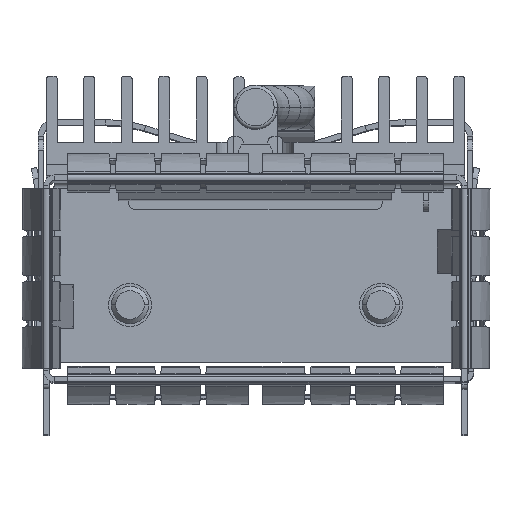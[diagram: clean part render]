
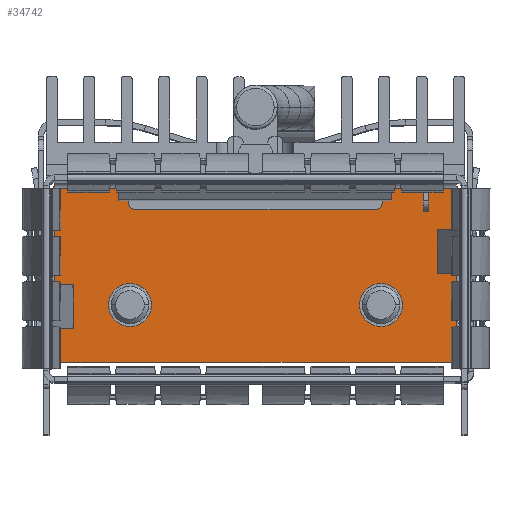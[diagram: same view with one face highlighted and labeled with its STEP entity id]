
A CAD part, top view. The second image highlights one B-rep face of the part: STEP entity #34742.
In plain terms, the highlighted planar face has unit normal (0, 0, 1).
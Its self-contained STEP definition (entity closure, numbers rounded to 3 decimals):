
#3237=DIRECTION('',(-1.,0.,0.));
#3238=VECTOR('',#3237,18.25);
#3239=CARTESIAN_POINT('',(9.125,4.2,-30.458));
#3240=LINE('',#3239,#3238);
#10620=DIRECTION('',(0.,1.,0.));
#10621=VECTOR('',#10620,7.9);
#10622=CARTESIAN_POINT('',(9.125,-3.7,-30.458));
#10623=LINE('',#10622,#10621);
#10949=DIRECTION('',(-1.,0.,0.));
#10950=VECTOR('',#10949,18.25);
#10951=CARTESIAN_POINT('',(9.125,-3.7,-30.458));
#10952=LINE('',#10951,#10950);
#10953=CARTESIAN_POINT('',(5.7,-1.1,-30.458));
#10954=DIRECTION('',(0.,0.,1.));
#10955=DIRECTION('',(-1.,0.,0.));
#10956=AXIS2_PLACEMENT_3D('',#10953,#10954,#10955);
#10958=CARTESIAN_POINT('',(5.7,-1.1,-30.458));
#10959=DIRECTION('',(0.,0.,1.));
#10960=DIRECTION('',(1.,0.,0.));
#10961=AXIS2_PLACEMENT_3D('',#10958,#10959,#10960);
#10963=CARTESIAN_POINT('',(-5.7,-1.1,-30.458));
#10964=DIRECTION('',(0.,0.,1.));
#10965=DIRECTION('',(-1.,0.,0.));
#10966=AXIS2_PLACEMENT_3D('',#10963,#10964,#10965);
#10968=CARTESIAN_POINT('',(-5.7,-1.1,-30.458));
#10969=DIRECTION('',(0.,0.,1.));
#10970=DIRECTION('',(1.,0.,0.));
#10971=AXIS2_PLACEMENT_3D('',#10968,#10969,#10970);
#10996=DIRECTION('',(0.,-1.,0.));
#10997=VECTOR('',#10996,7.9);
#10998=CARTESIAN_POINT('',(-9.125,4.2,-30.458));
#10999=LINE('',#10998,#10997);
#18038=CARTESIAN_POINT('',(9.125,4.2,-30.458));
#18039=VERTEX_POINT('',#18038);
#18040=CARTESIAN_POINT('',(-9.125,4.2,-30.458));
#18041=VERTEX_POINT('',#18040);
#20032=CARTESIAN_POINT('',(9.125,-3.7,-30.458));
#20033=VERTEX_POINT('',#20032);
#20134=CARTESIAN_POINT('',(-9.125,-3.7,-30.458));
#20135=VERTEX_POINT('',#20134);
#20138=CARTESIAN_POINT('',(4.725,-1.1,-30.458));
#20139=CARTESIAN_POINT('',(6.675,-1.1,-30.458));
#20140=VERTEX_POINT('',#20138);
#20141=VERTEX_POINT('',#20139);
#20142=CARTESIAN_POINT('',(-6.675,-1.1,-30.458));
#20143=CARTESIAN_POINT('',(-4.725,-1.1,-30.458));
#20144=VERTEX_POINT('',#20142);
#20145=VERTEX_POINT('',#20143);
#34718=CARTESIAN_POINT('',(9.125,4.2,-30.458));
#34719=DIRECTION('',(0.,0.,-1.));
#34720=DIRECTION('',(0.,-1.,0.));
#34721=AXIS2_PLACEMENT_3D('',#34718,#34719,#34720);
#34722=PLANE('',#34721);
#34723=ORIENTED_EDGE('',*,*,#34708,.T.);
#34725=ORIENTED_EDGE('',*,*,#34724,.F.);
#34726=ORIENTED_EDGE('',*,*,#23565,.F.);
#34727=ORIENTED_EDGE('',*,*,#34315,.F.);
#34728=EDGE_LOOP('',(#34723,#34725,#34726,#34727));
#34729=FACE_OUTER_BOUND('',#34728,.F.);
#34731=ORIENTED_EDGE('',*,*,#34730,.T.);
#34733=ORIENTED_EDGE('',*,*,#34732,.T.);
#34734=EDGE_LOOP('',(#34731,#34733));
#34735=FACE_BOUND('',#34734,.F.);
#34737=ORIENTED_EDGE('',*,*,#34736,.T.);
#34739=ORIENTED_EDGE('',*,*,#34738,.T.);
#34740=EDGE_LOOP('',(#34737,#34739));
#34741=FACE_BOUND('',#34740,.F.);
#34742=ADVANCED_FACE('',(#34729,#34735,#34741),#34722,.F.);
#10957=CIRCLE('',#10956,0.975);
#10962=CIRCLE('',#10961,0.975);
#10967=CIRCLE('',#10966,0.975);
#10972=CIRCLE('',#10971,0.975);
#23565=EDGE_CURVE('',#18039,#18041,#3240,.T.);
#34315=EDGE_CURVE('',#20033,#18039,#10623,.T.);
#34708=EDGE_CURVE('',#20033,#20135,#10952,.T.);
#34724=EDGE_CURVE('',#18041,#20135,#10999,.T.);
#34730=EDGE_CURVE('',#20140,#20141,#10957,.T.);
#34732=EDGE_CURVE('',#20141,#20140,#10962,.T.);
#34736=EDGE_CURVE('',#20144,#20145,#10967,.T.);
#34738=EDGE_CURVE('',#20145,#20144,#10972,.T.);
